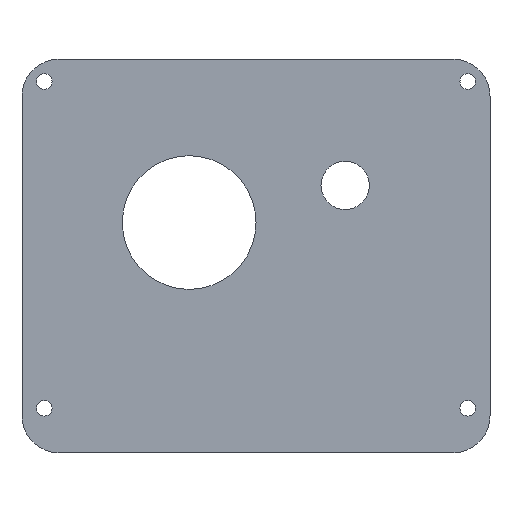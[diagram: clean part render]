
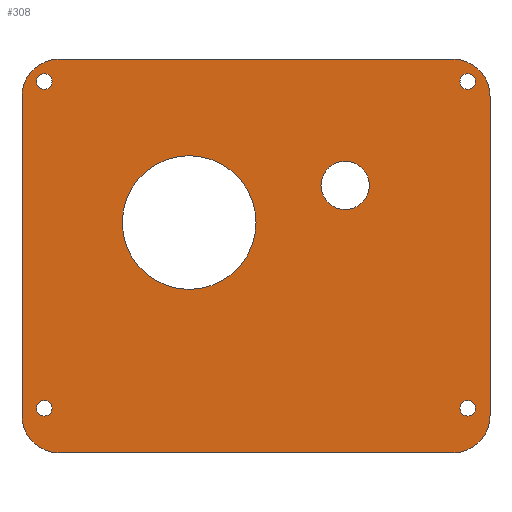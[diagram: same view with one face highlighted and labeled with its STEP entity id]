
A CAD part, front view. The second image highlights one B-rep face of the part: STEP entity #308.
In plain terms, the highlighted planar face has unit normal (0, -1, 0).
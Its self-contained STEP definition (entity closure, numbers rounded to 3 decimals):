
#22 = VERTEX_POINT('',#23);
#23 = CARTESIAN_POINT('',(-53.,-134.8,106.));
#31 = EDGE_CURVE('',#22,#32,#34,.T.);
#32 = VERTEX_POINT('',#33);
#33 = CARTESIAN_POINT('',(53.,-134.8,106.));
#34 = LINE('',#35,#36);
#35 = CARTESIAN_POINT('',(-53.,-134.8,106.));
#36 = VECTOR('',#37,1.);
#37 = DIRECTION('',(1.,0.,-0.));
#71 = VERTEX_POINT('',#72);
#72 = CARTESIAN_POINT('',(-63.,-134.8,96.));
#78 = EDGE_CURVE('',#71,#22,#79,.T.);
#79 = CIRCLE('',#80,10.);
#80 = AXIS2_PLACEMENT_3D('',#81,#82,#83);
#81 = CARTESIAN_POINT('',(-53.,-134.8,96.));
#82 = DIRECTION('',(0.,1.,0.));
#83 = DIRECTION('',(0.,-0.,1.));
#289 = EDGE_CURVE('',#32,#290,#292,.T.);
#290 = VERTEX_POINT('',#291);
#291 = CARTESIAN_POINT('',(63.,-134.8,96.));
#292 = CIRCLE('',#293,10.);
#293 = AXIS2_PLACEMENT_3D('',#294,#295,#296);
#294 = CARTESIAN_POINT('',(53.,-134.8,96.));
#295 = DIRECTION('',(0.,1.,0.));
#296 = DIRECTION('',(0.,-0.,1.));
#308 = ADVANCED_FACE('',(#309,#354,#365,#376,#387,#398,#409),#420,.T.);
#309 = FACE_BOUND('',#310,.T.);
#310 = EDGE_LOOP('',(#311,#321,#330,#336,#337,#338,#339,#347));
#311 = ORIENTED_EDGE('',*,*,#312,.T.);
#312 = EDGE_CURVE('',#313,#315,#317,.T.);
#313 = VERTEX_POINT('',#314);
#314 = CARTESIAN_POINT('',(-53.,-134.8,0.));
#315 = VERTEX_POINT('',#316);
#316 = CARTESIAN_POINT('',(53.,-134.8,0.));
#317 = LINE('',#318,#319);
#318 = CARTESIAN_POINT('',(-53.,-134.8,0.));
#319 = VECTOR('',#320,1.);
#320 = DIRECTION('',(1.,0.,-0.));
#321 = ORIENTED_EDGE('',*,*,#322,.F.);
#322 = EDGE_CURVE('',#323,#315,#325,.T.);
#323 = VERTEX_POINT('',#324);
#324 = CARTESIAN_POINT('',(63.,-134.8,10.));
#325 = CIRCLE('',#326,10.);
#326 = AXIS2_PLACEMENT_3D('',#327,#328,#329);
#327 = CARTESIAN_POINT('',(53.,-134.8,10.));
#328 = DIRECTION('',(0.,1.,0.));
#329 = DIRECTION('',(0.,-0.,1.));
#330 = ORIENTED_EDGE('',*,*,#331,.T.);
#331 = EDGE_CURVE('',#323,#290,#332,.T.);
#332 = LINE('',#333,#334);
#333 = CARTESIAN_POINT('',(63.,-134.8,10.));
#334 = VECTOR('',#335,1.);
#335 = DIRECTION('',(0.,0.,1.));
#336 = ORIENTED_EDGE('',*,*,#289,.F.);
#337 = ORIENTED_EDGE('',*,*,#31,.F.);
#338 = ORIENTED_EDGE('',*,*,#78,.F.);
#339 = ORIENTED_EDGE('',*,*,#340,.F.);
#340 = EDGE_CURVE('',#341,#71,#343,.T.);
#341 = VERTEX_POINT('',#342);
#342 = CARTESIAN_POINT('',(-63.,-134.8,10.));
#343 = LINE('',#344,#345);
#344 = CARTESIAN_POINT('',(-63.,-134.8,10.));
#345 = VECTOR('',#346,1.);
#346 = DIRECTION('',(0.,0.,1.));
#347 = ORIENTED_EDGE('',*,*,#348,.F.);
#348 = EDGE_CURVE('',#313,#341,#349,.T.);
#349 = CIRCLE('',#350,10.);
#350 = AXIS2_PLACEMENT_3D('',#351,#352,#353);
#351 = CARTESIAN_POINT('',(-53.,-134.8,10.));
#352 = DIRECTION('',(0.,1.,0.));
#353 = DIRECTION('',(0.,-0.,1.));
#354 = FACE_BOUND('',#355,.T.);
#355 = EDGE_LOOP('',(#356));
#356 = ORIENTED_EDGE('',*,*,#357,.T.);
#357 = EDGE_CURVE('',#358,#358,#360,.T.);
#358 = VERTEX_POINT('',#359);
#359 = CARTESIAN_POINT('',(-57.,-134.8,102.1));
#360 = CIRCLE('',#361,2.1);
#361 = AXIS2_PLACEMENT_3D('',#362,#363,#364);
#362 = CARTESIAN_POINT('',(-57.,-134.8,100.));
#363 = DIRECTION('',(0.,1.,0.));
#364 = DIRECTION('',(0.,-0.,1.));
#365 = FACE_BOUND('',#366,.T.);
#366 = EDGE_LOOP('',(#367));
#367 = ORIENTED_EDGE('',*,*,#368,.T.);
#368 = EDGE_CURVE('',#369,#369,#371,.T.);
#369 = VERTEX_POINT('',#370);
#370 = CARTESIAN_POINT('',(-18.,-134.8,80.));
#371 = CIRCLE('',#372,18.);
#372 = AXIS2_PLACEMENT_3D('',#373,#374,#375);
#373 = CARTESIAN_POINT('',(-18.,-134.8,62.));
#374 = DIRECTION('',(0.,1.,0.));
#375 = DIRECTION('',(0.,-0.,1.));
#376 = FACE_BOUND('',#377,.T.);
#377 = EDGE_LOOP('',(#378));
#378 = ORIENTED_EDGE('',*,*,#379,.T.);
#379 = EDGE_CURVE('',#380,#380,#382,.T.);
#380 = VERTEX_POINT('',#381);
#381 = CARTESIAN_POINT('',(-57.,-134.8,14.1));
#382 = CIRCLE('',#383,2.1);
#383 = AXIS2_PLACEMENT_3D('',#384,#385,#386);
#384 = CARTESIAN_POINT('',(-57.,-134.8,12.));
#385 = DIRECTION('',(0.,1.,0.));
#386 = DIRECTION('',(0.,-0.,1.));
#387 = FACE_BOUND('',#388,.T.);
#388 = EDGE_LOOP('',(#389));
#389 = ORIENTED_EDGE('',*,*,#390,.T.);
#390 = EDGE_CURVE('',#391,#391,#393,.T.);
#391 = VERTEX_POINT('',#392);
#392 = CARTESIAN_POINT('',(24.,-134.8,78.5));
#393 = CIRCLE('',#394,6.5);
#394 = AXIS2_PLACEMENT_3D('',#395,#396,#397);
#395 = CARTESIAN_POINT('',(24.,-134.8,72.));
#396 = DIRECTION('',(0.,1.,0.));
#397 = DIRECTION('',(0.,-0.,1.));
#398 = FACE_BOUND('',#399,.T.);
#399 = EDGE_LOOP('',(#400));
#400 = ORIENTED_EDGE('',*,*,#401,.T.);
#401 = EDGE_CURVE('',#402,#402,#404,.T.);
#402 = VERTEX_POINT('',#403);
#403 = CARTESIAN_POINT('',(57.,-134.8,102.1));
#404 = CIRCLE('',#405,2.1);
#405 = AXIS2_PLACEMENT_3D('',#406,#407,#408);
#406 = CARTESIAN_POINT('',(57.,-134.8,100.));
#407 = DIRECTION('',(0.,1.,0.));
#408 = DIRECTION('',(0.,-0.,1.));
#409 = FACE_BOUND('',#410,.T.);
#410 = EDGE_LOOP('',(#411));
#411 = ORIENTED_EDGE('',*,*,#412,.T.);
#412 = EDGE_CURVE('',#413,#413,#415,.T.);
#413 = VERTEX_POINT('',#414);
#414 = CARTESIAN_POINT('',(57.,-134.8,14.1));
#415 = CIRCLE('',#416,2.1);
#416 = AXIS2_PLACEMENT_3D('',#417,#418,#419);
#417 = CARTESIAN_POINT('',(57.,-134.8,12.));
#418 = DIRECTION('',(0.,1.,0.));
#419 = DIRECTION('',(0.,-0.,1.));
#420 = PLANE('',#421);
#421 = AXIS2_PLACEMENT_3D('',#422,#423,#424);
#422 = CARTESIAN_POINT('',(0.,-134.8,53.));
#423 = DIRECTION('',(-0.,-1.,-0.));
#424 = DIRECTION('',(0.,0.,-1.));
